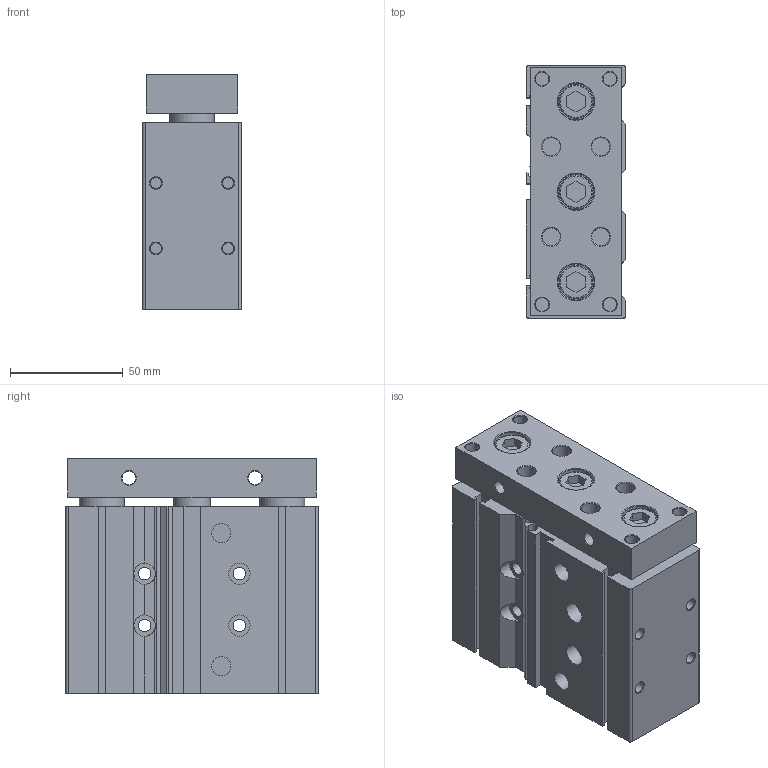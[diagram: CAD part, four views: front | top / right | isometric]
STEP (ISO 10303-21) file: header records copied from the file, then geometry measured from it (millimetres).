
FILE_DESCRIPTION((''),'2;1');
FILE_NAME('Z:\3D電子目錄\氣缸\TB(U)\TB(U)32\TB(U)32\TB32x30.stp','2011-09-22T10:56:57',('admin'),(''),'Autodesk Inventor 2012','Autodesk Inventor 2012','');
FILE_SCHEMA(('AUTOMOTIVE_DESIGN { 1 0 10303 214 1 1 1 1 }'));
Length unit declared in the file: millimetre
Products named in the file (1): TB32X30
Bounding box: 44 x 112 x 104 mm (x, y, z)
Volume: 443287 mm3; surface area: 65523 mm2
Topology: 1 solids, 1 shells, 206 faces, 462 edges, 294 vertices
Faces by surface type: plane 110, cylinder 56, cone 37, torus 3
Full cylindrical faces by diameter (mm): 5 x8, 5.5 x4, 6 x10, 8 x4, 8.5 x2, 9.5 x8, 15 x3, 16 x4, 20 x4, 28 x2, 34 x1
Entity records: 5348 total; most frequent: DIRECTION 944, CARTESIAN_POINT 873, ORIENTED_EDGE 744, EDGE_CURVE 372, AXIS2_PLACEMENT_3D 365, EDGE_LOOP 364, VERTEX_POINT 294, VECTOR 214
